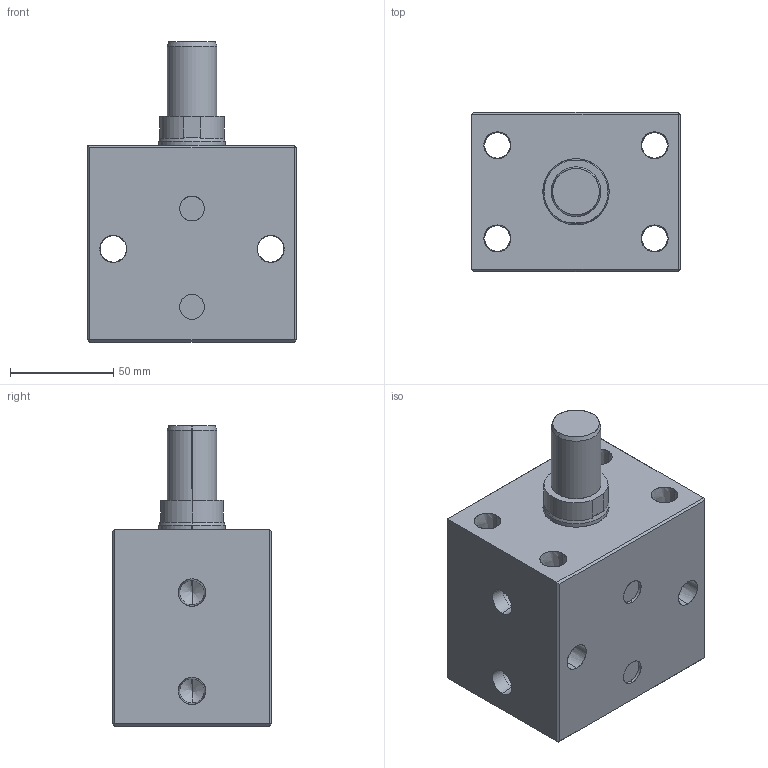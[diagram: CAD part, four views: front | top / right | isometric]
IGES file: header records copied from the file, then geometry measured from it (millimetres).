
Start section: SolidWorks IGES file using analytic representation for surfaces
Global section: file name: E:\ALL-SSVT-BLOCK\40-BORE-IGS-MODEL\BC04-50-25-M.IGS; native system: SolidWorks 2019; preprocessor: SolidWorks 2019; author: SSVT; date: 210825.154107; units: millimetre
Bounding box: 101 x 77 x 145 mm (x, y, z)
Surface area: 87434 mm2 (no closed solid volume)
Topology: 0 solids, 0 shells, 90 faces, 1751 edges, 1747 vertices
Faces by surface type: revolution 57, bspline 33
